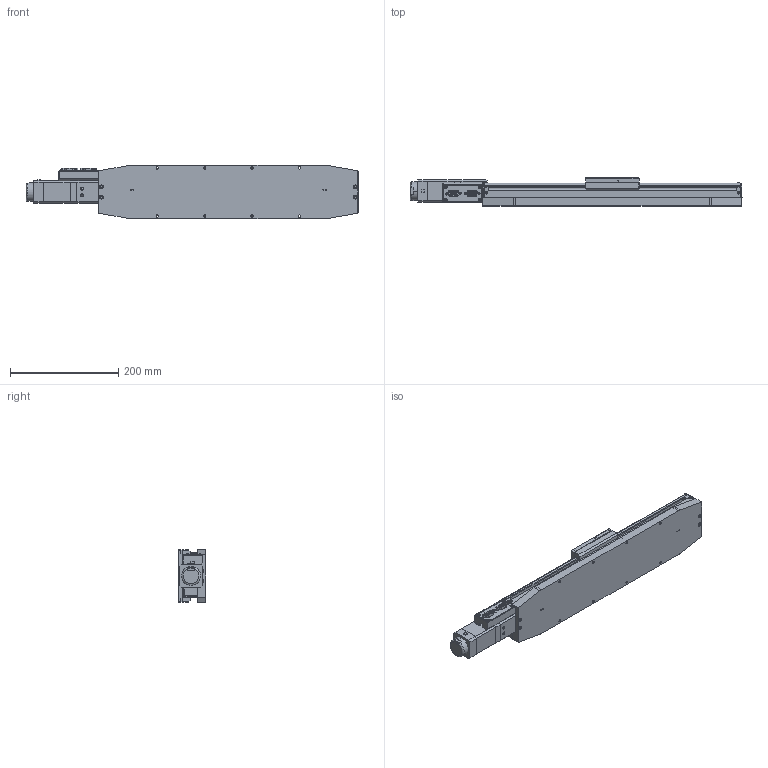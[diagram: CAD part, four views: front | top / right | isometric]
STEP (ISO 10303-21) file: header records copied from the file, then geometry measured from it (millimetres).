
FILE_DESCRIPTION (( 'STEP AP214' ), '1' );
FILE_NAME ('L3500.350-STC_v2_20180822.STEP', '2018-08-22T11:27:54', ( '' ), ( '' ), 'SwSTEP 2.0', 'SolidWorks 2017', '' );
FILE_SCHEMA (( 'AUTOMOTIVE_DESIGN' ));
Length unit declared in the file: millimetre
Products named in the file (1): L3500.350-STC_v2_20180822
Bounding box: 614.04 x 51.67 x 99.06 mm (x, y, z)
Volume: 1312954.1 mm3; surface area: 410561 mm2
Topology: 64 solids, 64 shells, 2924 faces, 7299 edges, 4643 vertices
Faces by surface type: plane 1437, cylinder 1108, cone 252, bspline 107, torus 20
Entity records: 91477 total; most frequent: CARTESIAN_POINT 20149, DIRECTION 14952, ORIENTED_EDGE 14302, EDGE_CURVE 7151, AXIS2_PLACEMENT_3D 5263, VERTEX_POINT 4643, VECTOR 4426, LINE 4426
